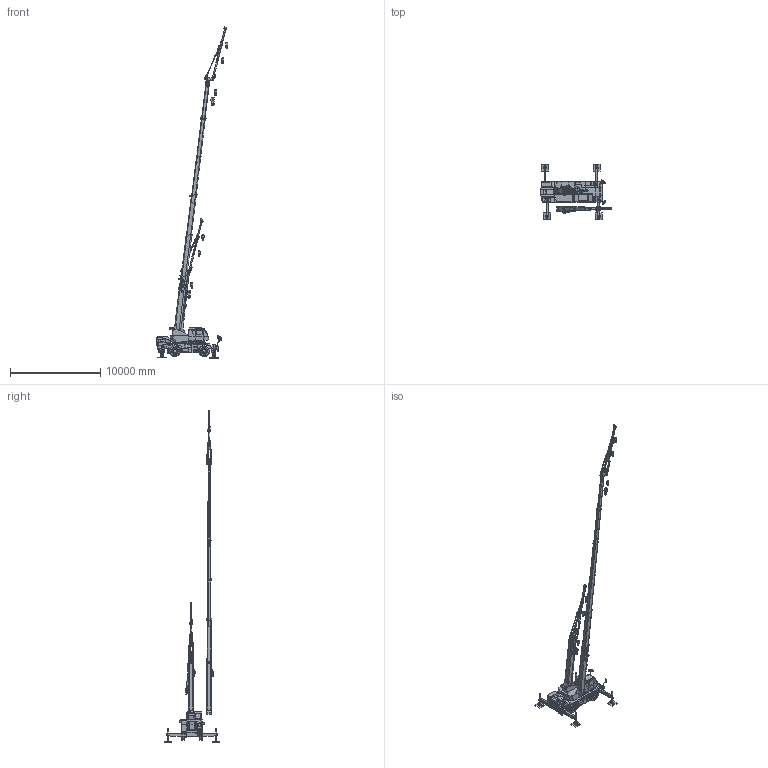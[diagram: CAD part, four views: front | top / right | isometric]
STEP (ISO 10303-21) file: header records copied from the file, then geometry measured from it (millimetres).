
FILE_DESCRIPTION(('CATIA V5 STEP Exchange','CAx-IF Rec.Pracs.--- Model Styling and Organization---1.4--- 2014-01-23'),'2;1');
FILE_NAME('\\Iba001\cad\CR\HP用CADデータ\04A\STP\MR-200Rf 3D.stp','2019-11-28T02:27:29+00:00',('none'),('none'),'CATIA Version 5-6 Release 2017 SP5 HF19','CATIA V5 STEP AP214','none');
FILE_SCHEMA(('AUTOMOTIVE_DESIGN { 1 0 10303 214 1 1 1 1 }'));
Products named in the file (37): MR-200Rf 3D; MR-200Rf UPPER; MR-200Rf UPPER STRUCTURE; MR-200Rf TABLE; MR-200Rf CAB; MR-200Rf MACHINE ROOM; MR-200Rf DERRICK CYLINDER-1; MR-200Rf DERRICK CYLINDER-2; MR-200Rf BOOM JIB Min; MR-200Rf BOOM Min; MR-200Rf BOOM1; MR-200Rf BOOM2; MR-200Rf BOOM3; MR-200Rf BOOM4; MR-200Rf BOOM5; MR-200Rf BOOM6; MR-200Rf JIB; MR-200Rf JIB 4.0m ASSY; MR-200Rf JIB 4.0m; MR-200Rf JIB-CYLINDER ROD+LINK; MR-200Rf JIB-CYLINDER TUBE; MR-200Rf JIB 5.8m ASSY; MR-200Rf JIB 5.8m; MR-200Rf JIB Stowed; MR-200Rf HOOK 3.2t; MR-200Rf HOOK 20t; MR-200Rf BOOM JIB Max; MR-200Rf BOOM Max; MR-200Rf CARRIER H Type; MR-200Rf CHASSIS H Type; MR-200Rf OUTRIGGER; MR-200Rf BEAM F-L; MR-200Rf BEAM H; MR-200Rf SEAT-OUTRIGGER 800X800X20; MR-200Rf BEAM F-R; MR-200Rf BEAM R-L; MR-200Rf BEAM R-R
Assembly tree (57 placements, depth 6):
  MR-200Rf 3D
    MR-200Rf UPPER
      MR-200Rf UPPER STRUCTURE
        MR-200Rf TABLE
        MR-200Rf CAB
        MR-200Rf MACHINE ROOM
        MR-200Rf DERRICK CYLINDER-1
        MR-200Rf DERRICK CYLINDER-2
      MR-200Rf BOOM JIB Min
        MR-200Rf BOOM Min
          MR-200Rf BOOM1
          MR-200Rf BOOM2
          MR-200Rf BOOM3
          MR-200Rf BOOM4
          MR-200Rf BOOM5
          MR-200Rf BOOM6
        MR-200Rf JIB
          MR-200Rf JIB 4.0m ASSY
            MR-200Rf JIB 4.0m
            MR-200Rf JIB-CYLINDER ROD+LINK
            MR-200Rf JIB-CYLINDER TUBE
          MR-200Rf JIB 5.8m ASSY
            MR-200Rf JIB 5.8m
            MR-200Rf JIB-CYLINDER ROD+LINK
            MR-200Rf JIB-CYLINDER TUBE
        MR-200Rf JIB Stowed
        MR-200Rf HOOK 3.2t  x3
        MR-200Rf HOOK 20t
      MR-200Rf BOOM JIB Max
        MR-200Rf BOOM Max
          MR-200Rf BOOM1
          MR-200Rf BOOM2
          MR-200Rf BOOM3
          MR-200Rf BOOM4
          MR-200Rf BOOM5
          MR-200Rf BOOM6
        MR-200Rf JIB
          MR-200Rf JIB 4.0m ASSY
            MR-200Rf JIB 4.0m
            MR-200Rf JIB-CYLINDER ROD+LINK
            MR-200Rf JIB-CYLINDER TUBE
          MR-200Rf JIB 5.8m ASSY
            MR-200Rf JIB 5.8m
            MR-200Rf JIB-CYLINDER ROD+LINK
            MR-200Rf JIB-CYLINDER TUBE
        MR-200Rf HOOK 3.2t  x3
        MR-200Rf HOOK 20t
    MR-200Rf CARRIER H Type
      MR-200Rf CHASSIS H Type
      MR-200Rf OUTRIGGER
        MR-200Rf BEAM F-L
          MR-200Rf BEAM H
          MR-200Rf SEAT-OUTRIGGER 800X800X20
        MR-200Rf BEAM F-R
          MR-200Rf BEAM H
          MR-200Rf SEAT-OUTRIGGER 800X800X20
        MR-200Rf BEAM R-L
          MR-200Rf BEAM H
          MR-200Rf SEAT-OUTRIGGER 800X800X20
        MR-200Rf BEAM R-R
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Bounding box: 7900.63 x 6200 x 36770.1 mm (x, y, z)
Volume: 29258575312.5 mm3; surface area: 330664764.2 mm2
Topology: 113 solids, 115 shells, 7774 faces, 20683 edges, 13462 vertices
Faces by surface type: plane 4454, cylinder 2120, torus 460, extrusion 439, bspline 207, cone 79, sphere 15
Entity records: 152728 total; most frequent: CARTESIAN_POINT 46002, ORIENTED_EDGE 24700, DIRECTION 16644, EDGE_CURVE 12350, VECTOR 8222, VERTEX_POINT 8065, LINE 7866, AXIS2_PLACEMENT_3D 5503
